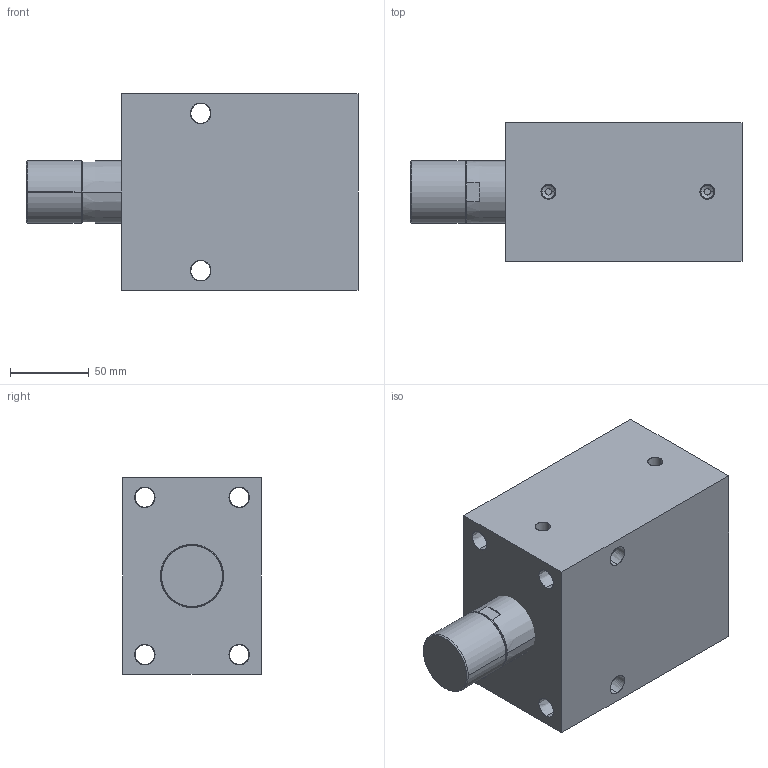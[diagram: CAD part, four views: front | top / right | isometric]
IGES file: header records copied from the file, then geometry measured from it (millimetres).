
Start section: SolidWorks IGES file using analytic representation for surfaces
Global section: file name: C:\Documents and Settings\rajib\Desktop\Rajib\BLOCK CYLINDER HYDRAULIC\0601-0606\IGS 0601-0608\0601.IGS; native system: SolidWorks 2007; preprocessor: SolidWorks 2007; author: rajib; date: 110121.104511; units: millimetre
Bounding box: 211 x 88 x 125 mm (x, y, z)
Surface area: 136131.3 mm2 (no closed solid volume)
Topology: 0 solids, 0 shells, 76 faces, 1856 edges, 1856 vertices
Faces by surface type: revolution 54, bspline 22
